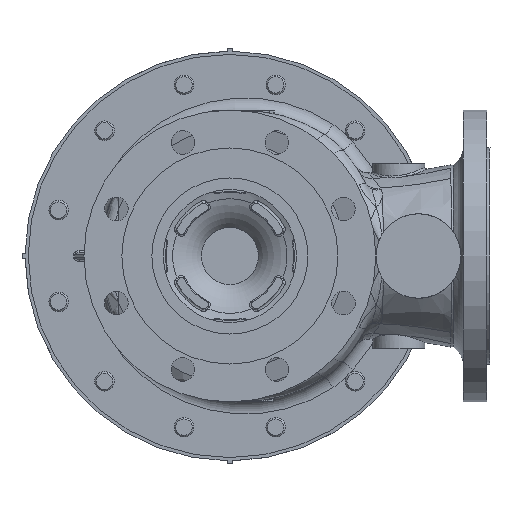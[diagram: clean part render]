
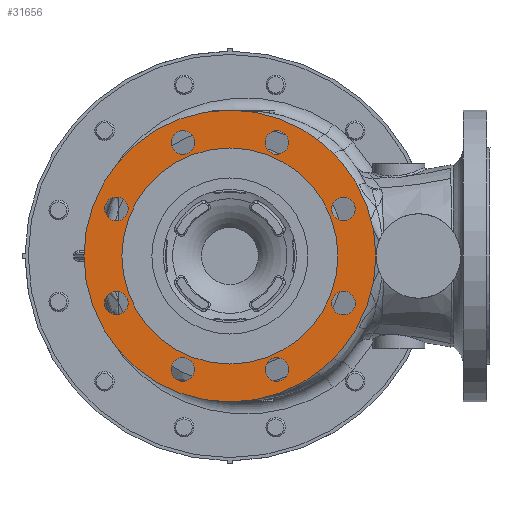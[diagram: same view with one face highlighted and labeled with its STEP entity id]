
A CAD part, front view. The second image highlights one B-rep face of the part: STEP entity #31656.
In plain terms, the highlighted planar face has unit normal (0, -1, 0).
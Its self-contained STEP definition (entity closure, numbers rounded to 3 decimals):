
#5005=FACE_BOUND('',#8175,.T.);
#5006=FACE_BOUND('',#8176,.T.);
#5007=FACE_BOUND('',#8177,.T.);
#5008=FACE_BOUND('',#8178,.T.);
#5009=FACE_BOUND('',#8179,.T.);
#5010=FACE_BOUND('',#8180,.T.);
#5011=FACE_BOUND('',#8181,.T.);
#5012=FACE_BOUND('',#8182,.T.);
#5013=FACE_BOUND('',#8183,.T.);
#5201=PLANE('',#33667);
#6206=FACE_OUTER_BOUND('',#8174,.T.);
#8174=EDGE_LOOP('',(#21631));
#8175=EDGE_LOOP('',(#21632));
#8176=EDGE_LOOP('',(#21633));
#8177=EDGE_LOOP('',(#21634));
#8178=EDGE_LOOP('',(#21635));
#8179=EDGE_LOOP('',(#21636));
#8180=EDGE_LOOP('',(#21637));
#8181=EDGE_LOOP('',(#21638));
#8182=EDGE_LOOP('',(#21639));
#8183=EDGE_LOOP('',(#21640));
#10299=CIRCLE('',#33665,105.5);
#10301=CIRCLE('',#33668,142.5);
#10302=CIRCLE('',#33669,11.5);
#10303=CIRCLE('',#33670,11.5);
#10304=CIRCLE('',#33671,11.5);
#10305=CIRCLE('',#33672,11.5);
#10306=CIRCLE('',#33673,11.5);
#10307=CIRCLE('',#33674,11.5);
#10308=CIRCLE('',#33675,11.5);
#10309=CIRCLE('',#33676,11.5);
#13199=VERTEX_POINT('',#49561);
#13201=VERTEX_POINT('',#49567);
#13202=VERTEX_POINT('',#49569);
#13203=VERTEX_POINT('',#49571);
#13204=VERTEX_POINT('',#49573);
#13205=VERTEX_POINT('',#49575);
#13206=VERTEX_POINT('',#49577);
#13207=VERTEX_POINT('',#49579);
#13208=VERTEX_POINT('',#49581);
#13209=VERTEX_POINT('',#49583);
#16487=EDGE_CURVE('',#13199,#13199,#10299,.T.);
#16490=EDGE_CURVE('',#13201,#13201,#10301,.T.);
#16491=EDGE_CURVE('',#13202,#13202,#10302,.T.);
#16492=EDGE_CURVE('',#13203,#13203,#10303,.T.);
#16493=EDGE_CURVE('',#13204,#13204,#10304,.T.);
#16494=EDGE_CURVE('',#13205,#13205,#10305,.T.);
#16495=EDGE_CURVE('',#13206,#13206,#10306,.T.);
#16496=EDGE_CURVE('',#13207,#13207,#10307,.T.);
#16497=EDGE_CURVE('',#13208,#13208,#10308,.T.);
#16498=EDGE_CURVE('',#13209,#13209,#10309,.T.);
#21631=ORIENTED_EDGE('',*,*,#16490,.F.);
#21632=ORIENTED_EDGE('',*,*,#16487,.F.);
#21633=ORIENTED_EDGE('',*,*,#16491,.F.);
#21634=ORIENTED_EDGE('',*,*,#16492,.F.);
#21635=ORIENTED_EDGE('',*,*,#16493,.F.);
#21636=ORIENTED_EDGE('',*,*,#16494,.F.);
#21637=ORIENTED_EDGE('',*,*,#16495,.F.);
#21638=ORIENTED_EDGE('',*,*,#16496,.F.);
#21639=ORIENTED_EDGE('',*,*,#16497,.F.);
#21640=ORIENTED_EDGE('',*,*,#16498,.F.);
#31656=ADVANCED_FACE('',(#6206,#5005,#5006,#5007,#5008,#5009,#5010,#5011,
#5012,#5013),#5201,.F.);
#33665=AXIS2_PLACEMENT_3D('',#49562,#37072,#37073);
#33667=AXIS2_PLACEMENT_3D('',#49566,#37077,#37078);
#33668=AXIS2_PLACEMENT_3D('',#49568,#37079,#37080);
#33669=AXIS2_PLACEMENT_3D('',#49570,#37081,#37082);
#33670=AXIS2_PLACEMENT_3D('',#49572,#37083,#37084);
#33671=AXIS2_PLACEMENT_3D('',#49574,#37085,#37086);
#33672=AXIS2_PLACEMENT_3D('',#49576,#37087,#37088);
#33673=AXIS2_PLACEMENT_3D('',#49578,#37089,#37090);
#33674=AXIS2_PLACEMENT_3D('',#49580,#37091,#37092);
#33675=AXIS2_PLACEMENT_3D('',#49582,#37093,#37094);
#33676=AXIS2_PLACEMENT_3D('',#49584,#37095,#37096);
#37072=DIRECTION('center_axis',(0.,-1.,0.));
#37073=DIRECTION('ref_axis',(-1.,0.,0.));
#37077=DIRECTION('center_axis',(0.,1.,0.));
#37078=DIRECTION('ref_axis',(-1.,0.,0.));
#37079=DIRECTION('center_axis',(0.,1.,0.));
#37080=DIRECTION('ref_axis',(-1.,0.,0.));
#37081=DIRECTION('center_axis',(0.,-1.,0.));
#37082=DIRECTION('ref_axis',(1.,0.,0.));
#37083=DIRECTION('center_axis',(0.,-1.,0.));
#37084=DIRECTION('ref_axis',(0.707,0.,-0.707));
#37085=DIRECTION('center_axis',(0.,-1.,0.));
#37086=DIRECTION('ref_axis',(0.,0.,
-1.));
#37087=DIRECTION('center_axis',(0.,-1.,0.));
#37088=DIRECTION('ref_axis',(-0.707,0.,-0.707));
#37089=DIRECTION('center_axis',(0.,-1.,0.));
#37090=DIRECTION('ref_axis',(-1.,0.,0.));
#37091=DIRECTION('center_axis',(0.,-1.,0.));
#37092=DIRECTION('ref_axis',(0.,0.,1.));
#37093=DIRECTION('center_axis',(0.,-1.,0.));
#37094=DIRECTION('ref_axis',(-0.707,0.,0.707));
#37095=DIRECTION('center_axis',(0.,-1.,0.));
#37096=DIRECTION('ref_axis',(0.707,0.,0.707));
#49561=CARTESIAN_POINT('',(105.5,-285.93,-0.002));
#49562=CARTESIAN_POINT('Origin',(0.,-285.93,0.));
#49566=CARTESIAN_POINT('Origin',(0.,-285.93,0.));
#49567=CARTESIAN_POINT('',(142.5,-285.93,-0.003));
#49568=CARTESIAN_POINT('Origin',(0.,-285.93,0.));
#49569=CARTESIAN_POINT('',(99.365,-285.93,-45.924));
#49570=CARTESIAN_POINT('Origin',(110.865,-285.93,-45.924));
#49571=CARTESIAN_POINT('',(37.788,-285.93,-102.735));
#49572=CARTESIAN_POINT('Origin',(45.92,-285.93,-110.866));
#49573=CARTESIAN_POINT('',(-45.924,-285.93,-99.365));
#49574=CARTESIAN_POINT('Origin',(-45.924,-285.93,-110.865));
#49575=CARTESIAN_POINT('',(-102.735,-285.93,-37.788));
#49576=CARTESIAN_POINT('Origin',(-110.866,-285.93,-45.92));
#49577=CARTESIAN_POINT('',(-99.365,-285.93,45.924));
#49578=CARTESIAN_POINT('Origin',(-110.865,-285.93,45.924));
#49579=CARTESIAN_POINT('',(45.924,-285.93,99.365));
#49580=CARTESIAN_POINT('Origin',(45.924,-285.93,110.865));
#49581=CARTESIAN_POINT('',(-37.788,-285.93,102.735));
#49582=CARTESIAN_POINT('Origin',(-45.92,-285.93,110.866));
#49583=CARTESIAN_POINT('',(102.735,-285.93,37.788));
#49584=CARTESIAN_POINT('Origin',(110.866,-285.93,45.92));
